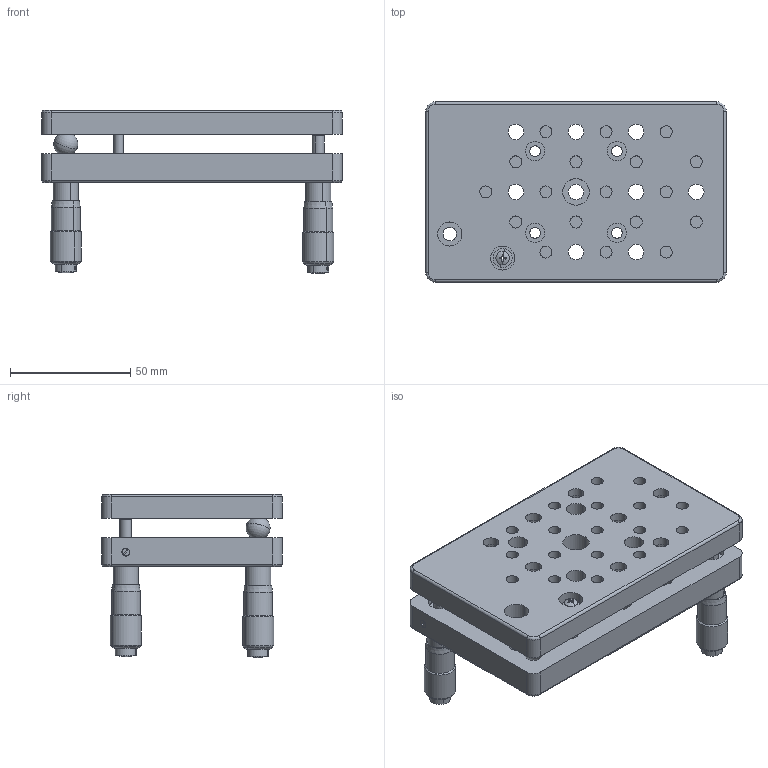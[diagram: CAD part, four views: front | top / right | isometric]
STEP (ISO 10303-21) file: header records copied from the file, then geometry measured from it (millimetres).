
FILE_DESCRIPTION (( 'STEP AP203' ), '1' );
FILE_NAME ('7SIM0205倾斜台.STEP', '2019-03-29T01:09:13', ( '' ), ( '' ), 'SwSTEP 2.0', 'SolidWorks 2014', '' );
FILE_SCHEMA (( 'CONFIG_CONTROL_DESIGN' ));
Length unit declared in the file: millimetre
Products named in the file (1): 7SIM0205ъ訇怢
Bounding box: 125 x 75 x 67.84 mm (x, y, z)
Surface area: 59746.5 mm2 (no closed solid volume)
Topology: 0 solids, 23 shells, 307 faces, 844 edges, 562 vertices
Faces by surface type: cylinder 195, plane 67, cone 25, sphere 12, torus 8
Entity records: 10319 total; most frequent: CARTESIAN_POINT 1978, DIRECTION 1908, ORIENTED_EDGE 1528, EDGE_CURVE 839, AXIS2_PLACEMENT_3D 801, VERTEX_POINT 559, CIRCLE 493, EDGE_LOOP 430
